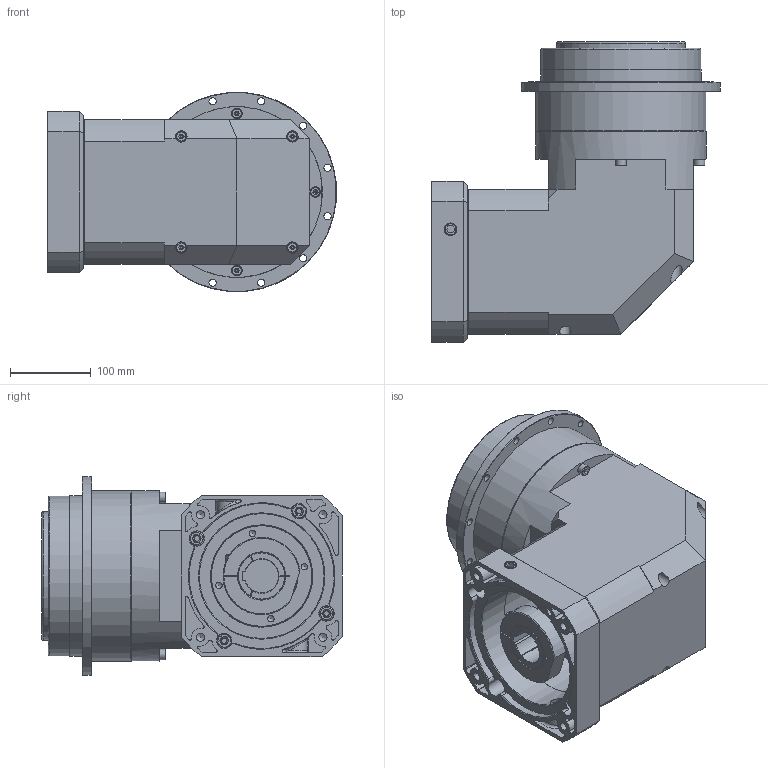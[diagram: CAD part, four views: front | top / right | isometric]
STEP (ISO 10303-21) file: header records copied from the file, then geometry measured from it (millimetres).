
FILE_DESCRIPTION((''),'2;1');
FILE_NAME('D:\WORK\감속기 카다로그 도면\ATG Reducer(홈페이지)\KSDL\KSDL-200-1.stp','2015-04-23T11:11:40',('young'),(''),'Autodesk Inventor 2012','Autodesk Inventor 2012','');
FILE_SCHEMA(('CONFIG_CONTROL_DESIGN'));
Length unit declared in the file: millimetre
Products named in the file (3): KSDL-200-1; KSDL-200-1 Input
Assembly tree (2 placements, depth 2):
  KSDL-200-1
    KSDL-200-1
    KSDL-200-1 Input
Bounding box: 358.53 x 373 x 247.06 mm (x, y, z)
Volume: 9535004.5 mm3; surface area: 1114801.6 mm2
Topology: 24 solids, 26 shells, 867 faces, 2194 edges, 1442 vertices
Faces by surface type: plane 390, cylinder 295, cone 144, torus 20, bspline 18
Full cylindrical faces by diameter (mm): 4 x1, 6.75 x11, 6.8 x8, 8 x11, 8.5 x1, 9 x19, 10 x2, 10.2 x8, 11 x1, 11.45 x3, 12 x4, 13 x11, 14 x4, 14.5 x4, 15.607 x2, 16 x1, 18 x4, 19 x4, 34 x1, 40 x1, 42 x1, 51 x1, 54.9 x1, 58.2 x1, 59.8 x1, 60 x1, 68 x2, 70 x1, 76 x1, 80 x3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
Entity records: 36980 total; most frequent: CARTESIAN_POINT 17767, DIRECTION 3975, ORIENTED_EDGE 3604, EDGE_CURVE 1802, AXIS2_PLACEMENT_3D 1629, VERTEX_POINT 1355, EDGE_LOOP 1277, FACE_OUTER_BOUND 848
